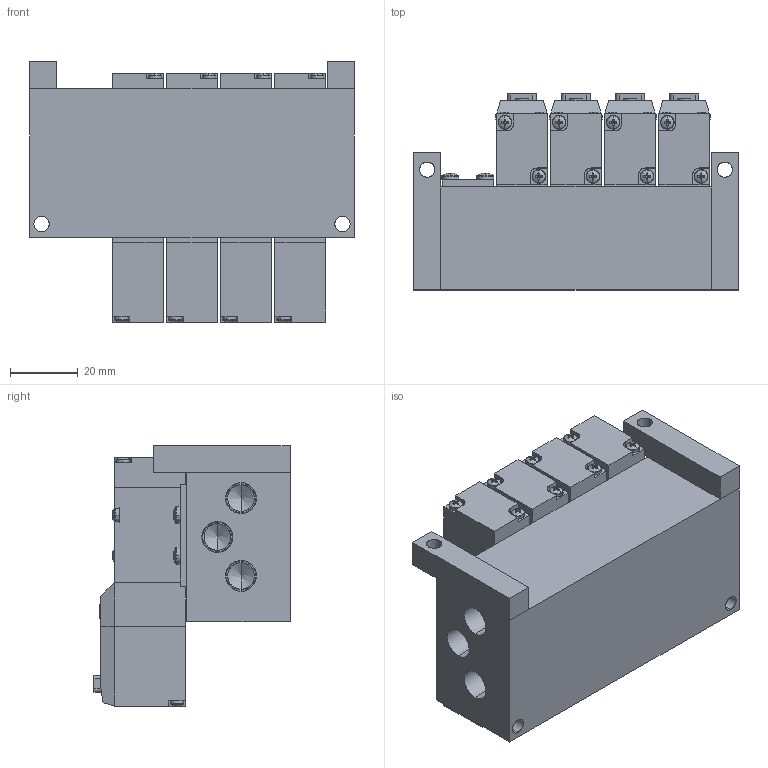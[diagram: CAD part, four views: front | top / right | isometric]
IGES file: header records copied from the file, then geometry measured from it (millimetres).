
Start section: SolidWorks IGES file using analytic representation for surfaces
Global section: file name: D:\Custom\3D繪製\PC\PC5\MFS#-PC5-01-B-U.IGS,1; native system: 5HSolidWorks 2014; preprocessor: SolidWorks 2014; author: Chieh_Lu; date: 150729.231334; units: millimetre
Bounding box: 96 x 58 x 77.07 mm (x, y, z)
Surface area: 67998.8 mm2 (no closed solid volume)
Topology: 0 solids, 0 shells, 2026 faces, 18663 edges, 18571 vertices
Faces by surface type: bspline 1248, revolution 778
